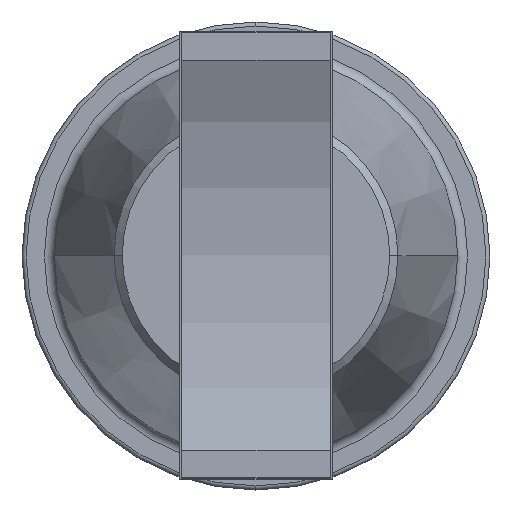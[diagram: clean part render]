
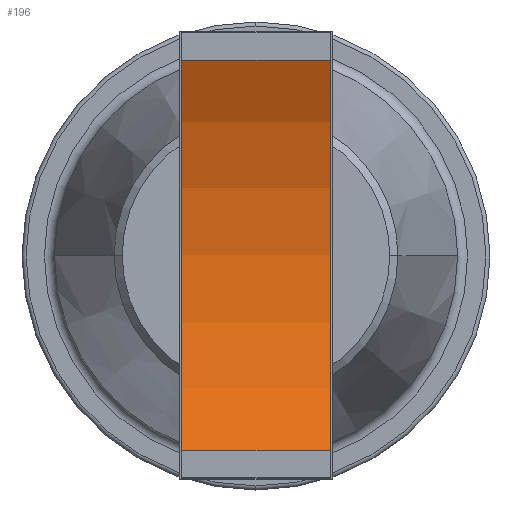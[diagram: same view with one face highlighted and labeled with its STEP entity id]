
A CAD part, top view. The second image highlights one B-rep face of the part: STEP entity #196.
In plain terms, the highlighted cylindrical face has radius 203.2 mm (diameter 406.4 mm), a partial arc.
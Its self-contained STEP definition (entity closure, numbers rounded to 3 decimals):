
#196=ADVANCED_FACE('',(#475),#476,.F.);
#475=FACE_OUTER_BOUND('',#876,.T.);
#476=CYLINDRICAL_SURFACE('',#877,203.2);
#876=EDGE_LOOP('',(#1251,#1252,#1253,#1254));
#877=AXIS2_PLACEMENT_3D('',#1255,#1256,#1257);
#1251=ORIENTED_EDGE('',*,*,#2282,.T.);
#1252=ORIENTED_EDGE('',*,*,#2283,.F.);
#1253=ORIENTED_EDGE('',*,*,#2284,.T.);
#1254=ORIENTED_EDGE('',*,*,#2279,.T.);
#1255=CARTESIAN_POINT('',(522.332,515.451,214.1));
#1256=DIRECTION('',(-1.0,0.,0.));
#1257=DIRECTION('',(0.,-1.0,0.));
#2279=EDGE_CURVE('',#2689,#2687,#2690,.T.);
#2282=EDGE_CURVE('',#2687,#2693,#2694,.T.);
#2283=EDGE_CURVE('',#2695,#2693,#2696,.T.);
#2284=EDGE_CURVE('',#2695,#2689,#2697,.T.);
#2687=VERTEX_POINT('',#3278);
#2689=VERTEX_POINT('',#3281);
#2690=LINE('',#3282,#3283);
#2693=VERTEX_POINT('',#3287);
#2694=CIRCLE('',#3288,203.2);
#2695=VERTEX_POINT('',#3289);
#2696=LINE('',#3290,#3291);
#2697=CIRCLE('',#3292,203.2);
#3278=CARTESIAN_POINT('',(449.332,611.251,34.9));
#3281=CARTESIAN_POINT('',(522.332,611.251,34.9));
#3282=CARTESIAN_POINT('',(522.332,611.251,34.9));
#3283=VECTOR('',#4575,1.0);
#3287=CARTESIAN_POINT('',(449.332,419.651,34.9));
#3288=AXIS2_PLACEMENT_3D('',#4577,#4578,#4579);
#3289=CARTESIAN_POINT('',(522.332,419.651,34.9));
#3290=CARTESIAN_POINT('',(522.332,419.651,34.9));
#3291=VECTOR('',#4580,1.0);
#3292=AXIS2_PLACEMENT_3D('',#4581,#4582,#4583);
#4575=DIRECTION('',(-1.0,0.,0.));
#4577=CARTESIAN_POINT('',(449.332,515.451,214.1));
#4578=DIRECTION('',(-1.0,0.,0.));
#4579=DIRECTION('',(0.,-1.0,0.));
#4580=DIRECTION('',(-1.0,0.,0.));
#4581=CARTESIAN_POINT('',(522.332,515.451,214.1));
#4582=DIRECTION('',(1.0,0.,0.));
#4583=DIRECTION('',(0.,-1.0,0.));
